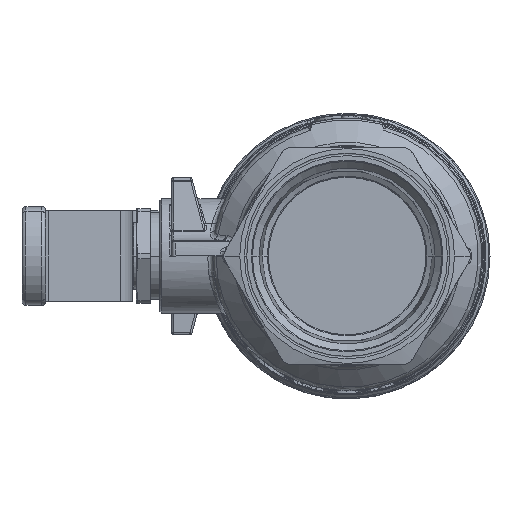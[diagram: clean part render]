
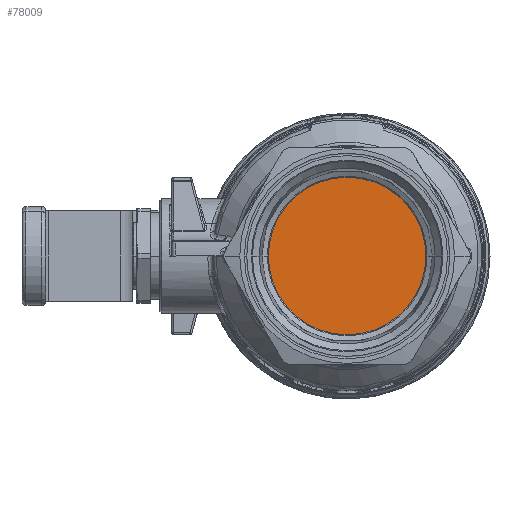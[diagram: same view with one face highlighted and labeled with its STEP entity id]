
A CAD part, left-side view. The second image highlights one B-rep face of the part: STEP entity #78009.
In plain terms, the highlighted planar face has unit normal (1, 0, 0).
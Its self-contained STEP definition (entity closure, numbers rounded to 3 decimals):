
#77952=CARTESIAN_POINT('',(24.134,0.,0.));
#77953=DIRECTION('',(1.,0.,0.));
#77954=DIRECTION('',(0.,1.,0.));
#77955=AXIS2_PLACEMENT_3D('',#77952,#77953,#77954);
#77961=CARTESIAN_POINT('',(24.134,0.,0.));
#77962=DIRECTION('',(-1.,0.,0.));
#77963=DIRECTION('',(0.,1.,0.));
#77964=AXIS2_PLACEMENT_3D('',#77961,#77962,#77963);
#77986=CARTESIAN_POINT('',(24.134,24.034,0.));
#77988=VERTEX_POINT('',#77986);
#77990=CARTESIAN_POINT('',(24.134,-24.034,0.));
#77992=VERTEX_POINT('',#77990);
#77998=CARTESIAN_POINT('',(24.134,0.,0.));
#77999=DIRECTION('',(-1.,0.,0.));
#78000=DIRECTION('',(0.,1.,0.));
#78001=AXIS2_PLACEMENT_3D('',#77998,#77999,#78000);
#78002=PLANE('',#78001);
#78004=ORIENTED_EDGE('',*,*,#78003,.F.);
#78006=ORIENTED_EDGE('',*,*,#78005,.T.);
#78007=EDGE_LOOP('',(#78004,#78006));
#78008=FACE_OUTER_BOUND('',#78007,.F.);
#78009=ADVANCED_FACE('',(#78008),#78002,.F.);
#77956=CIRCLE('',#77955,24.034);
#77965=CIRCLE('',#77964,24.034);
#78003=EDGE_CURVE('',#77988,#77992,#77956,.T.);
#78005=EDGE_CURVE('',#77988,#77992,#77965,.T.);
